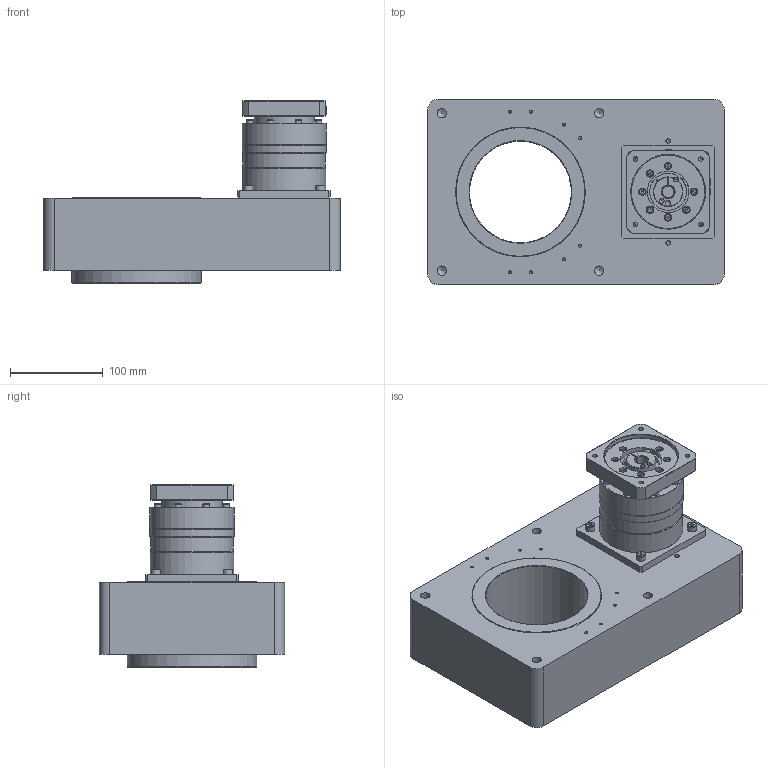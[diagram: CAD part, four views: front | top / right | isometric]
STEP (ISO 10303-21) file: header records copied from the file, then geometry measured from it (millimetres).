
FILE_DESCRIPTION((''),'2;1');
FILE_NAME('C:\Users\disegnatore3\Desktop\3D\TAVOLE ROTANTI\ROTAC PLUS\ROTAC PLUS 200\FORMATO CAD\ROTAC PLUS 200.stp','2017-01-17T11:50:49',('disegnatore3'),(''),'Autodesk Inventor 2012','Autodesk Inventor 2012','');
FILE_SCHEMA(('AUTOMOTIVE_DESIGN { 1 0 10303 214 1 1 1 1 }'));
Length unit declared in the file: millimetre
Products named in the file (7): ROTAC PLUS 200; C200P; PC200P; P1200; DIN 7984 M6 x 16; ISO 4762 M6 x 16; RID90R200P
Assembly tree (12 placements, depth 2):
  ROTAC PLUS 200
    C200P
    PC200P
    P1200
    DIN 7984 M6 x 16  x4
    ISO 4762 M6 x 16  x4
    RID90R200P
Bounding box: 320 x 200 x 197 mm (x, y, z)
Volume: 4924032.8 mm3; surface area: 406334.7 mm2
Topology: 12 solids, 12 shells, 589 faces, 1380 edges, 862 vertices
Faces by surface type: plane 290, cylinder 142, cone 118, torus 39
Full cylindrical faces by diameter (mm): 3.242 x16, 4.917 x20, 5 x3, 5.5 x1, 6 x8, 6.2 x8, 6.647 x1, 7 x15, 8 x10, 8.376 x6, 8.5 x1, 10 x8, 10.106 x8, 11 x4, 14 x1, 22 x2, 25 x1, 40 x1, 45 x1, 65 x1, 68 x4, 80 x1, 89 x1, 90 x1, 91 x2, 110 x1, 140 x2
Entity records: 12742 total; most frequent: CARTESIAN_POINT 2455, DIRECTION 2070, ORIENTED_EDGE 1712, EDGE_CURVE 856, AXIS2_PLACEMENT_3D 844, EDGE_LOOP 816, VERTEX_POINT 648, FACE_OUTER_BOUND 499
